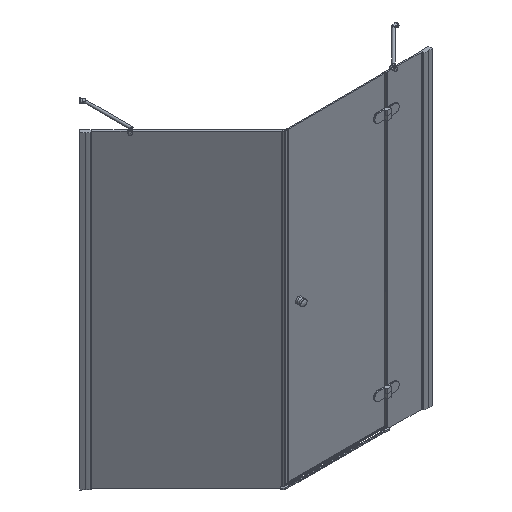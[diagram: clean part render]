
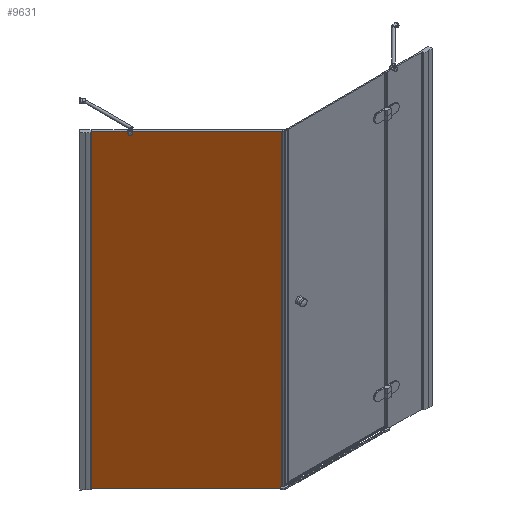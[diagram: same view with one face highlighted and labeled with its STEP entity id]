
A CAD part, isometric view. The second image highlights one B-rep face of the part: STEP entity #9631.
In plain terms, the highlighted planar face has unit normal (-0.707, -0.707, 0).
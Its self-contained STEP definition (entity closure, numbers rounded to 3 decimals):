
#253=LINE($,#14422,#1230);
#254=LINE($,#14424,#1231);
#255=LINE($,#14426,#1232);
#256=LINE($,#14428,#1233);
#257=LINE($,#14432,#1234);
#258=LINE($,#14434,#1235);
#259=LINE($,#14435,#1236);
#1230=VECTOR($,#11503,160.474);
#1231=VECTOR($,#11504,1900.);
#1232=VECTOR($,#11505,821.488);
#1233=VECTOR($,#11506,0.2);
#1234=VECTOR($,#11509,2.6);
#1235=VECTOR($,#11510,1898.);
#1236=VECTOR($,#11511,647.554);
#2389=FACE_OUTER_BOUND($,#2959,.T.);
#2959=EDGE_LOOP($,(#6405,#6406,#6407,#6408,#6409,#6410,#6411,#6412,#6413));
#3490=CIRCLE($,#10249,10.);
#3499=CIRCLE($,#10271,1.8);
#3878=VERTEX_POINT($,#14217);
#3879=VERTEX_POINT($,#14219);
#3896=VERTEX_POINT($,#14421);
#3897=VERTEX_POINT($,#14423);
#3898=VERTEX_POINT($,#14425);
#3899=VERTEX_POINT($,#14427);
#3900=VERTEX_POINT($,#14429);
#3901=VERTEX_POINT($,#14431);
#3902=VERTEX_POINT($,#14433);
#4794=EDGE_CURVE($,#3878,#3879,#3490,.T.);
#4818=EDGE_CURVE($,#3896,#3878,#253,.T.);
#4819=EDGE_CURVE($,#3897,#3896,#254,.T.);
#4820=EDGE_CURVE($,#3897,#3898,#255,.T.);
#4821=EDGE_CURVE($,#3899,#3898,#256,.T.);
#4822=EDGE_CURVE($,#3900,#3899,#3499,.T.);
#4823=EDGE_CURVE($,#3901,#3900,#257,.T.);
#4824=EDGE_CURVE($,#3902,#3901,#258,.T.);
#4825=EDGE_CURVE($,#3879,#3902,#259,.T.);
#6405=ORIENTED_EDGE($,*,*,#4794,.F.);
#6406=ORIENTED_EDGE($,*,*,#4818,.F.);
#6407=ORIENTED_EDGE($,*,*,#4819,.F.);
#6408=ORIENTED_EDGE($,*,*,#4820,.T.);
#6409=ORIENTED_EDGE($,*,*,#4821,.F.);
#6410=ORIENTED_EDGE($,*,*,#4822,.F.);
#6411=ORIENTED_EDGE($,*,*,#4823,.F.);
#6412=ORIENTED_EDGE($,*,*,#4824,.F.);
#6413=ORIENTED_EDGE($,*,*,#4825,.F.);
#8634=PLANE($,#10270);
#9631=ADVANCED_FACE($,(#2389),#8634,.F.);
#10249=AXIS2_PLACEMENT_3D($,#14220,#11452,#11453);
#10270=AXIS2_PLACEMENT_3D($,#14420,#11501,#11502);
#10271=AXIS2_PLACEMENT_3D($,#14430,#11507,#11508);
#11452=DIRECTION('center_axis',(-0.707,-0.707,0.));
#11453=DIRECTION('ref_axis',(-0.422,0.422,0.802));
#11501=DIRECTION('center_axis',(0.707,0.707,0.));
#11502=DIRECTION('ref_axis',(0.707,-0.707,0.));
#11503=DIRECTION($,(0.707,-0.707,0.));
#11504=DIRECTION($,(0.,0.,1.));
#11505=DIRECTION($,(0.707,-0.707,0.));
#11506=DIRECTION($,(0.,0.,-1.));
#11507=DIRECTION('center_axis',(-0.707,-0.707,0.));
#11508=DIRECTION('ref_axis',(0.,0.,
1.));
#11509=DIRECTION($,(-0.707,0.707,0.));
#11510=DIRECTION($,(0.,0.,-1.));
#11511=DIRECTION($,(0.707,-0.707,0.));
#14217=CARTESIAN_POINT('',(-973.426,1027.447,1375.944));
#14219=CARTESIAN_POINT('',(-960.797,1014.817,1375.944));
#14220=CARTESIAN_POINT('Origin',(-967.112,1021.132,1371.444));
#14420=CARTESIAN_POINT('Origin',(-1117.294,1171.314,1375.944));
#14421=CARTESIAN_POINT('',(-1086.899,1140.919,1375.944));
#14422=CARTESIAN_POINT($,(-1117.294,1171.314,1375.944));
#14423=CARTESIAN_POINT('',(-1086.899,1140.919,-524.056));
#14424=CARTESIAN_POINT($,(-1086.899,1140.919,1375.944));
#14425=CARTESIAN_POINT('',(-506.019,560.039,-524.056));
#14426=CARTESIAN_POINT($,(-1117.294,1171.314,-524.056));
#14427=CARTESIAN_POINT('',(-506.019,560.039,-523.856));
#14428=CARTESIAN_POINT($,(-506.019,560.039,427.009));
#14429=CARTESIAN_POINT('',(-504.746,558.766,-522.056));
#14430=CARTESIAN_POINT('Origin',(-504.746,558.766,-523.856));
#14431=CARTESIAN_POINT('',(-502.908,556.928,-522.056));
#14432=CARTESIAN_POINT($,(-814.308,868.328,-522.056));
#14433=CARTESIAN_POINT('',(-502.908,556.928,1375.944));
#14434=CARTESIAN_POINT($,(-502.908,556.928,1375.944));
#14435=CARTESIAN_POINT($,(-1117.294,1171.314,1375.944));
